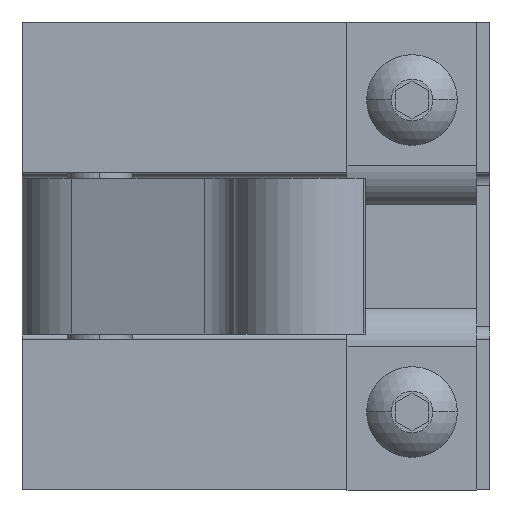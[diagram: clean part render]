
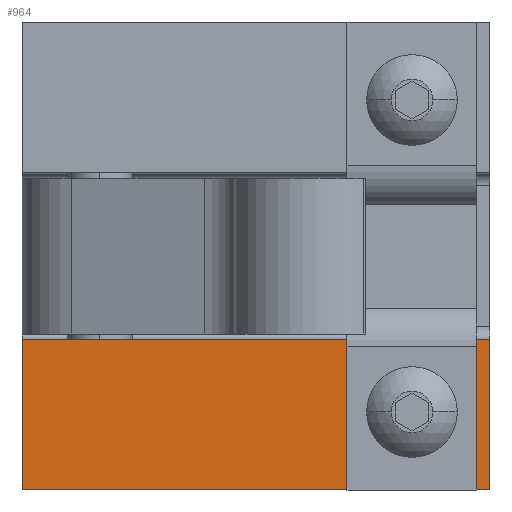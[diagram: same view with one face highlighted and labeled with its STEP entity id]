
A CAD part, left-side view. The second image highlights one B-rep face of the part: STEP entity #964.
In plain terms, the highlighted planar face has unit normal (-1, 0, 0).
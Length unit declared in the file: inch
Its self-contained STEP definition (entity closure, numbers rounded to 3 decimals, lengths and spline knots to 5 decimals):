
#136 = ORIENTED_EDGE ( 'NONE', *, *, #1093, .T. ) ;
#143 = ORIENTED_EDGE ( 'NONE', *, *, #22625, .F. ) ;
#964 = ADVANCED_FACE ( 'NONE', ( #8217, #8216 ), #8264, .T. ) ;
#965 = EDGE_LOOP ( 'NONE', ( #999, #1001 ) ) ;
#999 = ORIENTED_EDGE ( 'NONE', *, *, #1000, .F. ) ;
#1000 = EDGE_CURVE ( 'NONE', #22756, #22777, #8390, .T. ) ;
#1001 = ORIENTED_EDGE ( 'NONE', *, *, #22805, .F. ) ;
#1002 = EDGE_LOOP ( 'NONE', ( #1003, #143, #136, #1041 ) ) ;
#1003 = ORIENTED_EDGE ( 'NONE', *, *, #1004, .F. ) ;
#1004 = EDGE_CURVE ( 'NONE', #22613, #1005, #8385, .T. ) ;
#1005 = VERTEX_POINT ( 'NONE', #8381 ) ;
#1041 = ORIENTED_EDGE ( 'NONE', *, *, #1042, .T. ) ;
#1042 = EDGE_CURVE ( 'NONE', #1094, #1005, #8526, .T. ) ;
#1093 = EDGE_CURVE ( 'NONE', #22622, #1094, #8617, .T. ) ;
#1094 = VERTEX_POINT ( 'NONE', #8613 ) ;
#8216 = FACE_OUTER_BOUND ( 'NONE', #1002, .T. ) ;
#8217 = FACE_BOUND ( 'NONE', #965, .T. ) ;
#8241 = DIRECTION ( 'NONE',  ( 0., 0., 1. ) ) ;
#8261 = DIRECTION ( 'NONE',  ( -1., 0., 0. ) ) ;
#8262 = CARTESIAN_POINT ( 'NONE',  ( 2.43951, 3.75404, -2.25 ) ) ;
#8263 = AXIS2_PLACEMENT_3D ( 'NONE', #8262, #8261, #8241 ) ;
#8264 = PLANE ( 'NONE',  #8263 ) ;
#8381 = CARTESIAN_POINT ( 'NONE',  ( 2.43951, 3.75404, -1.525 ) ) ;
#8382 = DIRECTION ( 'NONE',  ( 0., -1., 0. ) ) ;
#8383 = VECTOR ( 'NONE', #8382, 39.37008 ) ;
#8384 = CARTESIAN_POINT ( 'NONE',  ( 2.43951, 3.75404, -1.525 ) ) ;
#8385 = LINE ( 'NONE', #8384, #8383 ) ;
#8386 = DIRECTION ( 'NONE',  ( 0., 0., 1. ) ) ;
#8387 = DIRECTION ( 'NONE',  ( -1., 0., 0. ) ) ;
#8388 = CARTESIAN_POINT ( 'NONE',  ( 2.43951, 4.12904, -1.875 ) ) ;
#8389 = AXIS2_PLACEMENT_3D ( 'NONE', #8388, #8387, #8386 ) ;
#8390 = CIRCLE ( 'NONE', #8389, 0.125 ) ;
#8523 = DIRECTION ( 'NONE',  ( 0., 0., 1. ) ) ;
#8524 = VECTOR ( 'NONE', #8523, 39.37008 ) ;
#8525 = CARTESIAN_POINT ( 'NONE',  ( 2.43951, 3.75404, -2.25 ) ) ;
#8526 = LINE ( 'NONE', #8525, #8524 ) ;
#8613 = CARTESIAN_POINT ( 'NONE',  ( 2.43951, 3.75404, -2.25 ) ) ;
#8614 = DIRECTION ( 'NONE',  ( 0., -1., 0. ) ) ;
#8615 = VECTOR ( 'NONE', #8614, 39.37008 ) ;
#8616 = CARTESIAN_POINT ( 'NONE',  ( 2.43951, 3.75404, -2.25 ) ) ;
#8617 = LINE ( 'NONE', #8616, #8615 ) ;
#18996 = CARTESIAN_POINT ( 'NONE',  ( 2.43951, 6.00404, -1.525 ) ) ;
#19085 = DIRECTION ( 'NONE',  ( 0., 0., 1. ) ) ;
#19087 = VECTOR ( 'NONE', #19085, 39.37008 ) ;
#19088 = CARTESIAN_POINT ( 'NONE',  ( 2.43951, 6.00404, -2.25 ) ) ;
#19090 = LINE ( 'NONE', #19088, #19087 ) ;
#19106 = CARTESIAN_POINT ( 'NONE',  ( 2.43951, 6.00404, -2.25 ) ) ;
#19821 = CARTESIAN_POINT ( 'NONE',  ( 2.43951, 4.12904, -1.75 ) ) ;
#19876 = CARTESIAN_POINT ( 'NONE',  ( 2.43951, 4.12904, -2. ) ) ;
#20030 = DIRECTION ( 'NONE',  ( 0., 0., 1. ) ) ;
#20032 = DIRECTION ( 'NONE',  ( -1., 0., 0. ) ) ;
#20034 = CARTESIAN_POINT ( 'NONE',  ( 2.43951, 4.12904, -1.875 ) ) ;
#20035 = AXIS2_PLACEMENT_3D ( 'NONE', #20034, #20032, #20030 ) ;
#20036 = CIRCLE ( 'NONE', #20035, 0.125 ) ;
#22613 = VERTEX_POINT ( 'NONE', #18996 ) ;
#22622 = VERTEX_POINT ( 'NONE', #19106 ) ;
#22625 = EDGE_CURVE ( 'NONE', #22622, #22613, #19090, .T. ) ;
#22756 = VERTEX_POINT ( 'NONE', #19821 ) ;
#22777 = VERTEX_POINT ( 'NONE', #19876 ) ;
#22805 = EDGE_CURVE ( 'NONE', #22777, #22756, #20036, .T. ) ;
